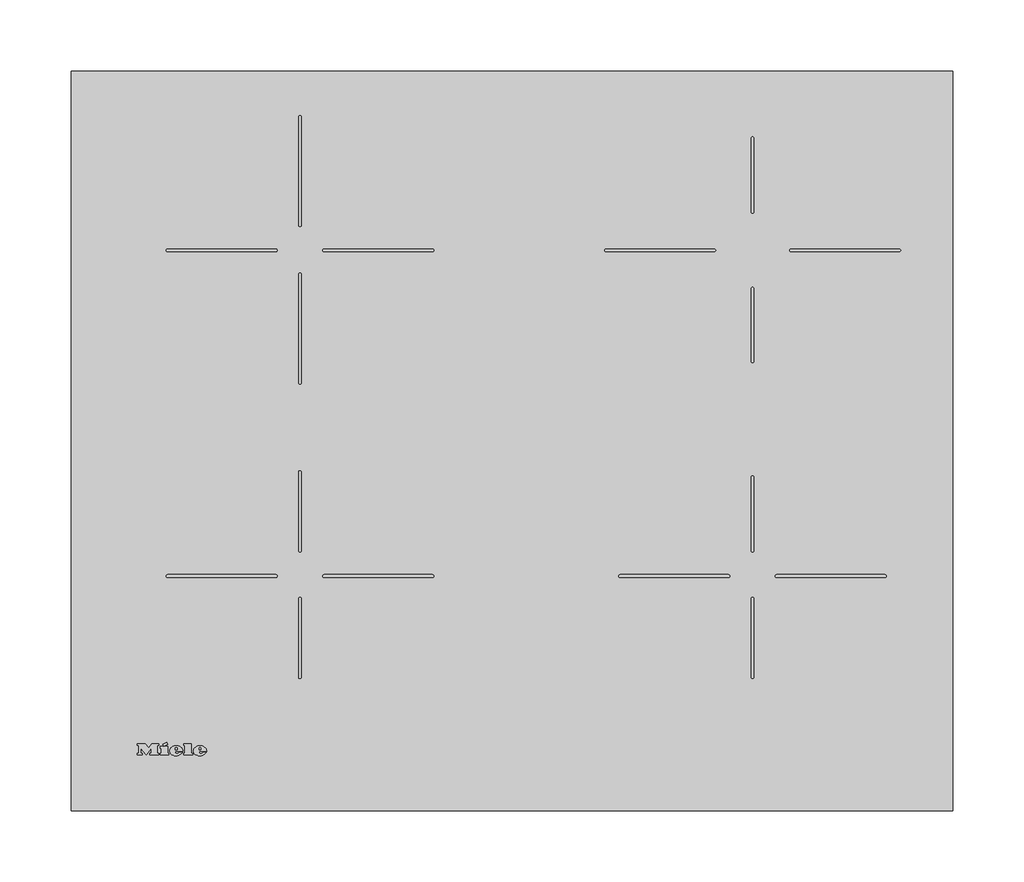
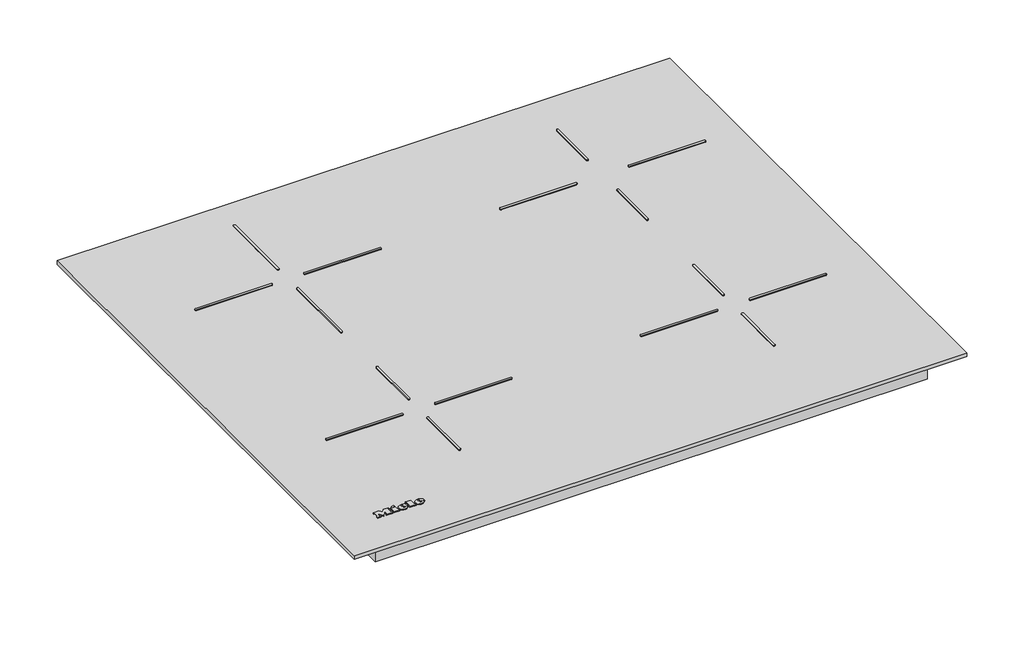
# Not in any storey: 1 proxy.
"""IFC4 building model written with IfcOpenShell, lengths in millimetres."""

from ifc_helpers import new_model, si_unit, origin, place, context, project, spatial, transform, mapped, element, save
from components import specialty_equipment_58978d6d

model = new_model("IFC4")

# Units and contexts
model_context = context("Model", 3, world=origin())
ifc_project = project(units=[si_unit("LENGTHUNIT", "METRE", prefix="MILLI")], contexts=[model_context])

# Site, building
site = spatial("IfcSite", under=ifc_project)
building = spatial("IfcBuilding", under=site)

# Proxy
placement = place(None, origin())
specialty_equipment_shape = specialty_equipment_58978d6d(model_context)
element("IfcBuildingElementProxy", 1, Name="12399930_CH_KM7361FL : 26736170_CH_12399930_KM7361FL", ObjectType="12399930_CH_KM7361FL : 26736170_CH_12399930_KM7361FL", at=placement, inside=building, context=model_context, shape_type="MappedRepresentation", body=[
    mapped(specialty_equipment_shape, transform((0.0, 0.0, 0.0), x_axis=(1.0, 0.0, 0.0), y_axis=(0.0, 1.0, 0.0), z_axis=(0.0, 0.0, 1.0))),
])

save(model, "model.ifc")
